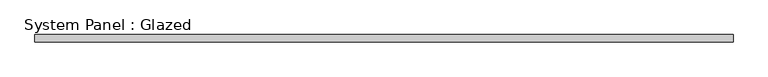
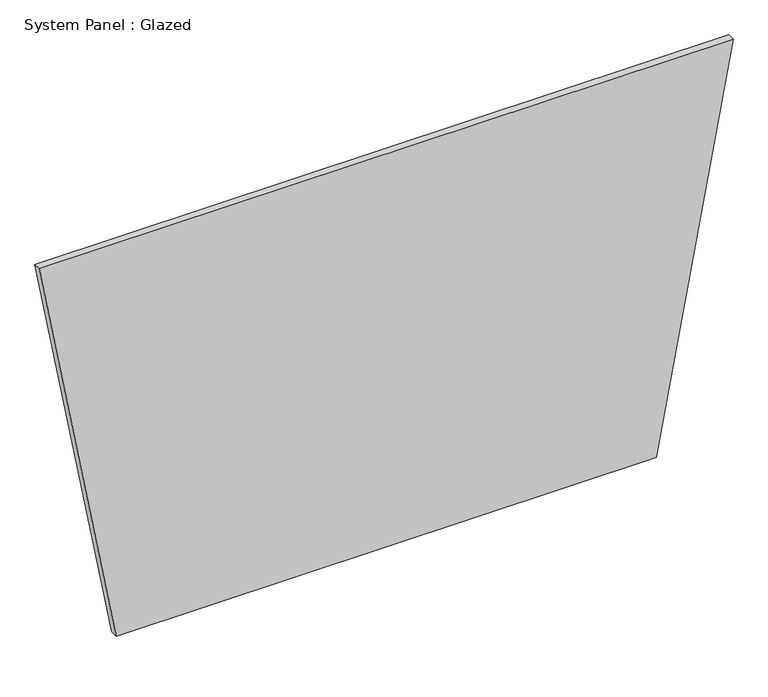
"""IFC4 building model written with IfcOpenShell, lengths in millimetres: plate geometry, System Panel : Glazed."""

from ifc_helpers import new_model, si_unit, frame, origin, place, context, project, spatial, polyline, outline, extrude, source, transform, mapped, element, save


def system_panel_glazed_08e752b3(model_context):
    return source(origin(), model_context, "Body", "SweptSolid", [
        extrude(outline(polyline([(0.0, -932.2704324), (0.0, 932.2704324), (1435.0528112, 1197.8549081), (1435.0528112, -1197.8549081), (0.0, -932.2704324)])), frame((0.0, -44.45, 0.0), z_axis=(0.0, 1.0, 0.0), x_axis=(0.0, 0.0, 1.0)), (0.0, 0.0, 1.0), 25.4),
    ])


if __name__ == "__main__":
    model = new_model("IFC4")
    model_context = context("Model", 3, world=origin())
    ifc_project = project(units=[si_unit("LENGTHUNIT", "METRE", prefix="MILLI")], contexts=[model_context])
    site = spatial("IfcSite", under=ifc_project)
    building = spatial("IfcBuilding", under=site)
    placement = place(None, origin())
    system_panel_glazed_shape = system_panel_glazed_08e752b3(model_context)
    element("IfcPlate", 1, ObjectType="System Panel : Glazed", at=placement, inside=building, context=model_context, shape_type="MappedRepresentation", body=[
        mapped(system_panel_glazed_shape, transform((0.0, 0.0, 0.0), x_axis=(1.0, 0.0, 0.0), y_axis=(0.0, 1.0, 0.0), z_axis=(0.0, 0.0, 1.0))),
    ])
    save(model, "model.ifc")
